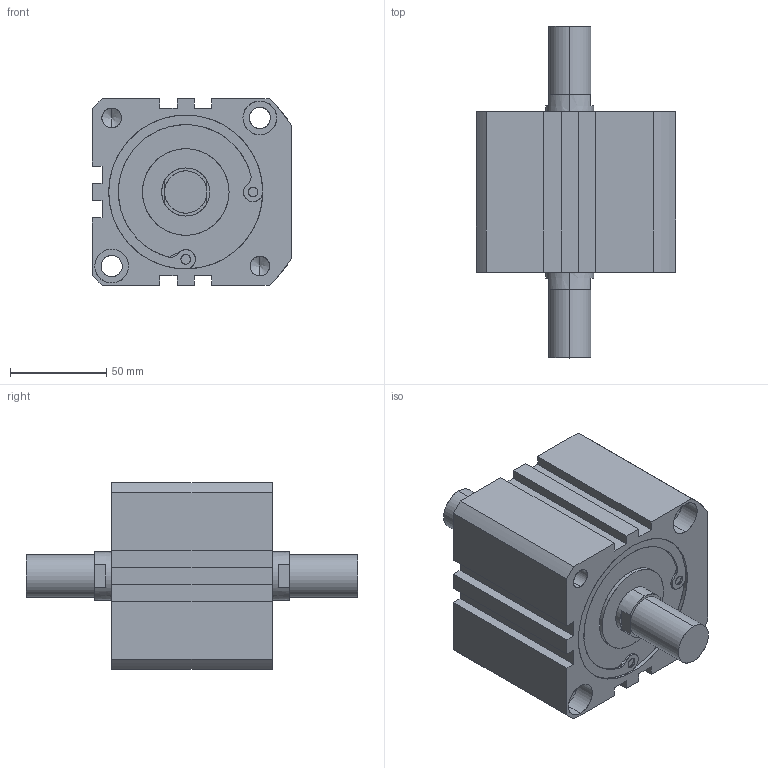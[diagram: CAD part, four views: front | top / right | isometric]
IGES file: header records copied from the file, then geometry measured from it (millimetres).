
Start section: SolidWorks IGES file using analytic representation for surfaces
Global section: file name: C:\Users\Toshiba\Desktop\XG#M7-80D-10.IGS; native system: SolidWorks 2014; preprocessor: SolidWorks 2014; author: Toshiba; date: 160524.102542; units: millimetre
Bounding box: 103.5 x 172.5 x 97 mm (x, y, z)
Surface area: 75723 mm2 (no closed solid volume)
Topology: 0 solids, 0 shells, 142 faces, 2698 edges, 2686 vertices
Faces by surface type: revolution 82, bspline 60
